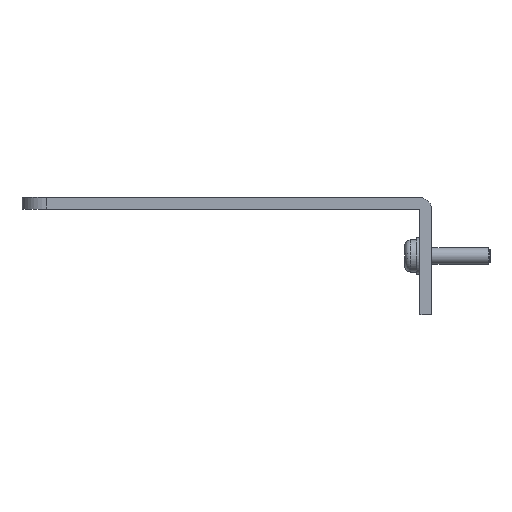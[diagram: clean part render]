
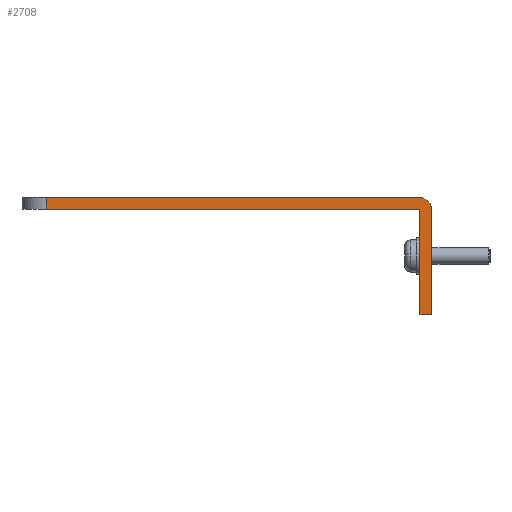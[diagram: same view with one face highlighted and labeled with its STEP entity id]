
A CAD part, left-side view. The second image highlights one B-rep face of the part: STEP entity #2708.
In plain terms, the highlighted planar face has unit normal (-1, 0, 0).
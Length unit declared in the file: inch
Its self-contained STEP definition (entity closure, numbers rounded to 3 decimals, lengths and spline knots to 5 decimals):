
#62=LINE($,#3853,#408);
#64=LINE($,#3859,#410);
#65=LINE($,#3863,#411);
#66=LINE($,#3865,#412);
#67=LINE($,#3867,#413);
#68=LINE($,#3870,#414);
#408=VECTOR($,#3105,0.06);
#410=VECTOR($,#3111,1.914);
#411=VECTOR($,#3114,0.539);
#412=VECTOR($,#3115,0.06);
#413=VECTOR($,#3116,0.539);
#414=VECTOR($,#3119,1.914);
#821=FACE_OUTER_BOUND($,#964,.T.);
#964=EDGE_LOOP($,(#1902,#1903,#1904,#1905,#1906,#1907,#1908,#1909));
#1130=CIRCLE($,#2865,0.001);
#1131=CIRCLE($,#2866,0.061);
#1184=VERTEX_POINT($,#3850);
#1185=VERTEX_POINT($,#3852);
#1187=VERTEX_POINT($,#3858);
#1188=VERTEX_POINT($,#3860);
#1189=VERTEX_POINT($,#3862);
#1190=VERTEX_POINT($,#3864);
#1191=VERTEX_POINT($,#3866);
#1192=VERTEX_POINT($,#3868);
#1459=EDGE_CURVE($,#1184,#1185,#62,.T.);
#1462=EDGE_CURVE($,#1184,#1187,#64,.T.);
#1463=EDGE_CURVE($,#1187,#1188,#1130,.T.);
#1464=EDGE_CURVE($,#1188,#1189,#65,.T.);
#1465=EDGE_CURVE($,#1190,#1189,#66,.T.);
#1466=EDGE_CURVE($,#1191,#1190,#67,.T.);
#1467=EDGE_CURVE($,#1192,#1191,#1131,.T.);
#1468=EDGE_CURVE($,#1192,#1185,#68,.T.);
#1902=ORIENTED_EDGE($,*,*,#1459,.F.);
#1903=ORIENTED_EDGE($,*,*,#1462,.T.);
#1904=ORIENTED_EDGE($,*,*,#1463,.T.);
#1905=ORIENTED_EDGE($,*,*,#1464,.T.);
#1906=ORIENTED_EDGE($,*,*,#1465,.F.);
#1907=ORIENTED_EDGE($,*,*,#1466,.F.);
#1908=ORIENTED_EDGE($,*,*,#1467,.F.);
#1909=ORIENTED_EDGE($,*,*,#1468,.T.);
#2578=PLANE($,#2864);
#2708=ADVANCED_FACE($,(#821),#2578,.T.);
#2864=AXIS2_PLACEMENT_3D($,#3857,#3109,#3110);
#2865=AXIS2_PLACEMENT_3D($,#3861,#3112,#3113);
#2866=AXIS2_PLACEMENT_3D($,#3869,#3117,#3118);
#3105=DIRECTION($,(0.,0.,1.));
#3109=DIRECTION('center_axis',(-1.,0.,0.));
#3110=DIRECTION('ref_axis',(0.,0.,1.));
#3111=DIRECTION($,(0.,-1.,0.));
#3112=DIRECTION('center_axis',(1.,0.,0.));
#3113=DIRECTION('ref_axis',(0.,0.,1.));
#3114=DIRECTION($,(0.,0.,-1.));
#3115=DIRECTION($,(0.,1.,0.));
#3116=DIRECTION($,(0.,0.,-1.));
#3117=DIRECTION('center_axis',(1.,0.,0.));
#3118=DIRECTION('ref_axis',(0.,0.,1.));
#3119=DIRECTION($,(0.,1.,0.));
#3850=CARTESIAN_POINT('',(0.,1.975,-0.06));
#3852=CARTESIAN_POINT('',(0.,1.975,0.));
#3853=CARTESIAN_POINT($,(0.,1.975,0.));
#3857=CARTESIAN_POINT('Origin',(0.,2.1,0.));
#3858=CARTESIAN_POINT('',(0.,0.061,-0.06));
#3859=CARTESIAN_POINT($,(0.,0.,-0.06));
#3860=CARTESIAN_POINT('',(0.,0.06,-0.061));
#3861=CARTESIAN_POINT('Origin',(0.,0.061,-0.061));
#3862=CARTESIAN_POINT('',(0.,0.06,-0.6));
#3863=CARTESIAN_POINT($,(0.,0.06,0.));
#3864=CARTESIAN_POINT('',(0.,0.,-0.6));
#3865=CARTESIAN_POINT($,(0.,0.,-0.6));
#3866=CARTESIAN_POINT('',(0.,0.,-0.061));
#3867=CARTESIAN_POINT($,(0.,0.,0.));
#3868=CARTESIAN_POINT('',(0.,0.061,0.));
#3869=CARTESIAN_POINT('Origin',(0.,0.061,-0.061));
#3870=CARTESIAN_POINT($,(0.,0.,0.));
